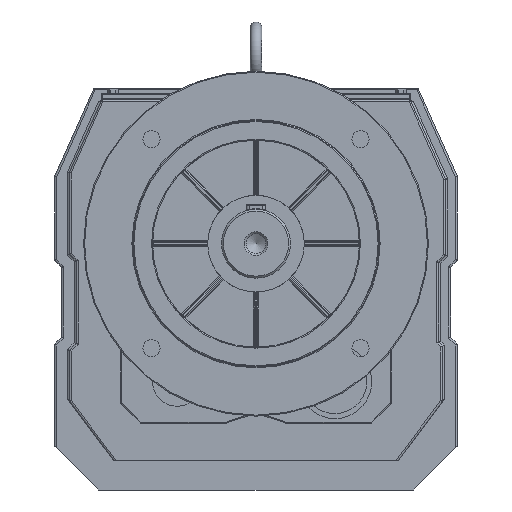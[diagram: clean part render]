
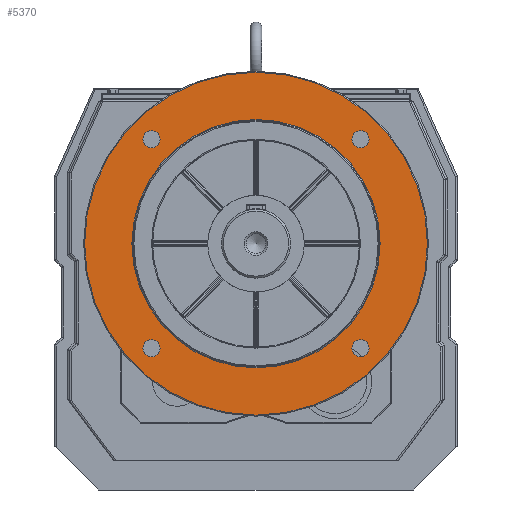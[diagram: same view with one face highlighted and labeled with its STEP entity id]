
A CAD part, front view. The second image highlights one B-rep face of the part: STEP entity #5370.
In plain terms, the highlighted planar face has unit normal (0, -1, 0).
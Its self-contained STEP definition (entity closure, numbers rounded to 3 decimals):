
#5292=CARTESIAN_POINT('',(0.0,-230.0,424.0));
#5293=VERTEX_POINT('',#5292);
#5294=CARTESIAN_POINT('',(0.0,-230.0,250.0));
#5295=DIRECTION('',(0.0,1.0,0.0));
#5296=DIRECTION('',(0.0,0.0,-1.0));
#5297=AXIS2_PLACEMENT_3D('',#5294,#5295,#5296);
#5298=CIRCLE('',#5297,174.0);
#5299=EDGE_CURVE('',#5293,#5293,#5298,.T.);
#5307=CARTESIAN_POINT('',(0.0,-230.0,400.0));
#5308=DIRECTION('',(0.0,-1.0,0.0));
#5309=DIRECTION('',(0.0,0.0,-1.0));
#5310=AXIS2_PLACEMENT_3D('',#5307,#5308,#5309);
#5311=PLANE('',#5310);
#5312=ORIENTED_EDGE('',*,*,#5299,.F.);
#5313=EDGE_LOOP('',(#5312));
#5314=FACE_OUTER_BOUND('',#5313,.T.);
#5315=CARTESIAN_POINT('',(0.,-230.0,376.0));
#5316=VERTEX_POINT('',#5315);
#5317=CARTESIAN_POINT('',(0.0,-230.0,250.0));
#5318=DIRECTION('',(0.0,-1.0,0.0));
#5319=DIRECTION('',(0.0,0.0,-1.0));
#5320=AXIS2_PLACEMENT_3D('',#5317,#5318,#5319);
#5321=CIRCLE('',#5320,126.0);
#5322=EDGE_CURVE('',#5316,#5316,#5321,.T.);
#5323=ORIENTED_EDGE('',*,*,#5322,.F.);
#5324=EDGE_LOOP('',(#5323));
#5325=FACE_BOUND('',#5324,.T.);
#5326=CARTESIAN_POINT('',(-97.316,-230.0,356.066));
#5327=VERTEX_POINT('',#5326);
#5328=CARTESIAN_POINT('',(-106.066,-230.0,356.066));
#5329=DIRECTION('',(0.0,1.0,0.0));
#5330=DIRECTION('',(1.0,0.0,0.0));
#5331=AXIS2_PLACEMENT_3D('',#5328,#5329,#5330);
#5332=CIRCLE('',#5331,8.75);
#5333=EDGE_CURVE('',#5327,#5327,#5332,.T.);
#5334=ORIENTED_EDGE('',*,*,#5333,.T.);
#5335=EDGE_LOOP('',(#5334));
#5336=FACE_BOUND('',#5335,.T.);
#5337=CARTESIAN_POINT('',(114.816,-230.0,356.066));
#5338=VERTEX_POINT('',#5337);
#5339=CARTESIAN_POINT('',(106.066,-230.0,356.066));
#5340=DIRECTION('',(0.0,1.0,0.0));
#5341=DIRECTION('',(1.0,0.0,0.0));
#5342=AXIS2_PLACEMENT_3D('',#5339,#5340,#5341);
#5343=CIRCLE('',#5342,8.75);
#5344=EDGE_CURVE('',#5338,#5338,#5343,.T.);
#5345=ORIENTED_EDGE('',*,*,#5344,.T.);
#5346=EDGE_LOOP('',(#5345));
#5347=FACE_BOUND('',#5346,.T.);
#5348=CARTESIAN_POINT('',(114.816,-230.0,143.934));
#5349=VERTEX_POINT('',#5348);
#5350=CARTESIAN_POINT('',(106.066,-230.0,143.934));
#5351=DIRECTION('',(0.0,1.0,0.0));
#5352=DIRECTION('',(1.0,0.0,0.0));
#5353=AXIS2_PLACEMENT_3D('',#5350,#5351,#5352);
#5354=CIRCLE('',#5353,8.75);
#5355=EDGE_CURVE('',#5349,#5349,#5354,.T.);
#5356=ORIENTED_EDGE('',*,*,#5355,.T.);
#5357=EDGE_LOOP('',(#5356));
#5358=FACE_BOUND('',#5357,.T.);
#5359=CARTESIAN_POINT('',(-97.316,-230.0,143.934));
#5360=VERTEX_POINT('',#5359);
#5361=CARTESIAN_POINT('',(-106.066,-230.0,143.934));
#5362=DIRECTION('',(0.0,1.0,0.0));
#5363=DIRECTION('',(1.0,0.0,0.0));
#5364=AXIS2_PLACEMENT_3D('',#5361,#5362,#5363);
#5365=CIRCLE('',#5364,8.75);
#5366=EDGE_CURVE('',#5360,#5360,#5365,.T.);
#5367=ORIENTED_EDGE('',*,*,#5366,.T.);
#5368=EDGE_LOOP('',(#5367));
#5369=FACE_BOUND('',#5368,.T.);
#5370=ADVANCED_FACE('',(#5314,#5325,#5336,#5347,#5358,#5369),#5311,.T.);
